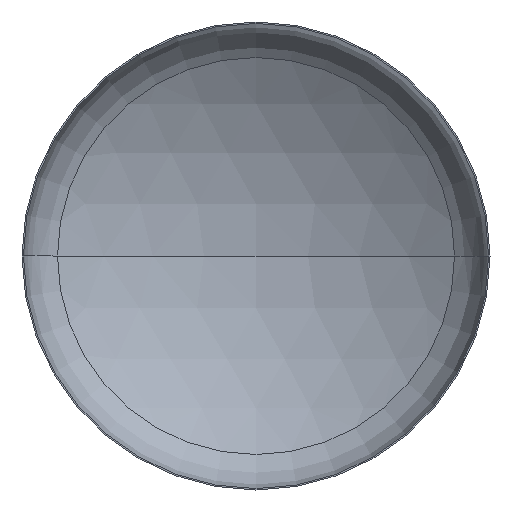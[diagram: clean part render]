
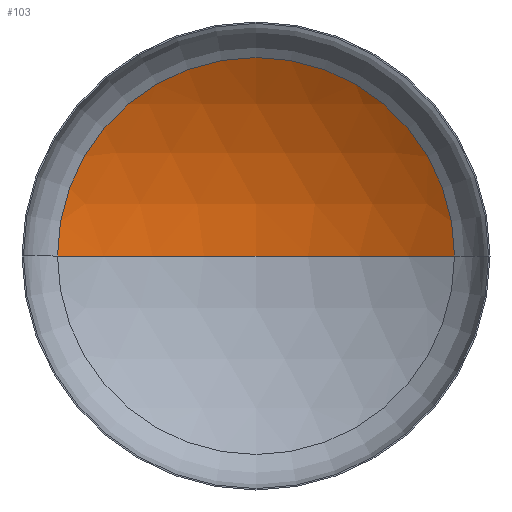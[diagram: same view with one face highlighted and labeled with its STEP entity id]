
A CAD part, front view. The second image highlights one B-rep face of the part: STEP entity #103.
In plain terms, the highlighted spherical face has radius 800 mm.
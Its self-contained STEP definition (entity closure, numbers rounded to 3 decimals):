
#7 = SPHERICAL_SURFACE ( 'NONE', #51, 800. ) ;
#32 = EDGE_LOOP ( 'NONE', ( #91, #152, #126 ) ) ;
#37 = AXIS2_PLACEMENT_3D ( 'NONE', #242, #239, #238 ) ;
#38 = AXIS2_PLACEMENT_3D ( 'NONE', #264, #262, #289 ) ;
#48 = AXIS2_PLACEMENT_3D ( 'NONE', #199, #205, #217 ) ;
#51 = AXIS2_PLACEMENT_3D ( 'NONE', #306, #307, #221 ) ;
#59 = VERTEX_POINT ( 'NONE', #248 ) ;
#91 = ORIENTED_EDGE ( 'NONE', *, *, #186, .F. ) ;
#103 = ADVANCED_FACE ( 'NONE', ( #361 ), #7, .F. ) ;
#126 = ORIENTED_EDGE ( 'NONE', *, *, #160, .T. ) ;
#129 = VERTEX_POINT ( 'NONE', #219 ) ;
#145 = VERTEX_POINT ( 'NONE', #273 ) ;
#152 = ORIENTED_EDGE ( 'NONE', *, *, #173, .T. ) ;
#160 = EDGE_CURVE ( 'NONE', #129, #145, #355, .T. ) ;
#173 = EDGE_CURVE ( 'NONE', #59, #129, #298, .T. ) ;
#186 = EDGE_CURVE ( 'NONE', #59, #145, #293, .T. ) ;
#199 = CARTESIAN_POINT ( 'NONE',  ( 0., 151.417, 0. ) ) ;
#205 = DIRECTION ( 'NONE',  ( 0., -1., 0. ) ) ;
#217 = DIRECTION ( 'NONE',  ( 1., 0., 0. ) ) ;
#219 = CARTESIAN_POINT ( 'NONE',  ( 424.186, 151.417, 0. ) ) ;
#221 = DIRECTION ( 'NONE',  ( -1., 0., 0. ) ) ;
#238 = DIRECTION ( 'NONE',  ( 1., 0., 0. ) ) ;
#239 = DIRECTION ( 'NONE',  ( 0., 0., 1. ) ) ;
#242 = CARTESIAN_POINT ( 'NONE',  ( 0., -526.865, 0. ) ) ;
#248 = CARTESIAN_POINT ( 'NONE',  ( 0., 273.135, 0. ) ) ;
#262 = DIRECTION ( 'NONE',  ( 0., 0., -1. ) ) ;
#264 = CARTESIAN_POINT ( 'NONE',  ( 0., -526.865, 0. ) ) ;
#273 = CARTESIAN_POINT ( 'NONE',  ( -424.186, 151.417, 0. ) ) ;
#289 = DIRECTION ( 'NONE',  ( -1., 0., 0. ) ) ;
#293 = CIRCLE ( 'NONE', #37, 800. ) ;
#298 = CIRCLE ( 'NONE', #38, 800. ) ;
#306 = CARTESIAN_POINT ( 'NONE',  ( 0., -526.865, 0. ) ) ;
#307 = DIRECTION ( 'NONE',  ( 0., 0., -1. ) ) ;
#355 = CIRCLE ( 'NONE', #48, 424.186 ) ;
#361 = FACE_OUTER_BOUND ( 'NONE', #32, .T. ) ;
